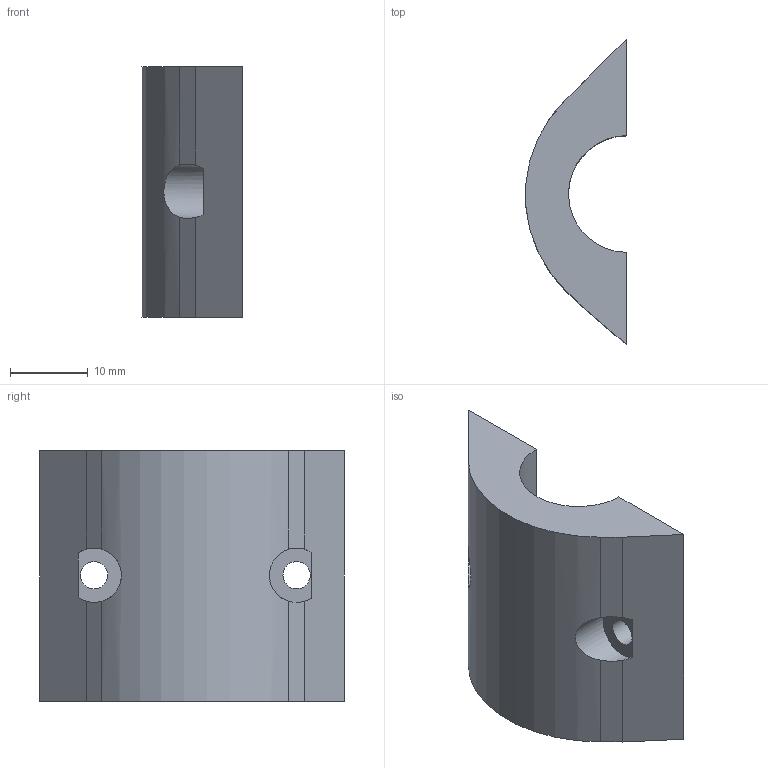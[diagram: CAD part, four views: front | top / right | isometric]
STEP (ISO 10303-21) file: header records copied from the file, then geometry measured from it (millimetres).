
FILE_DESCRIPTION(/* description */ (''),/* implementation_level */ '2;1');
FILE_NAME(/* name */ 'BC Z to Bed Clamp v1.step',/* time_stamp */ '2023-03-23T06:35:04-06:00',/* author */ (''),/* organization */ (''),/* preprocessor_version */ 'ST-DEVELOPER v19.2',/* originating_system */ 'Autodesk Translation Framework v11.17.0.187',/* authorisation */ '');
FILE_SCHEMA (('AUTOMOTIVE_DESIGN { 1 0 10303 214 3 1 1 }'));
Length unit declared in the file: millimetre
Products named in the file (2): BC Z to Bed Clamp; BC Z to Bed 2
Assembly tree (1 placements, depth 2):
  BC Z to Bed Clamp
    BC Z to Bed 2
Bounding box: 12.88 x 39.14 x 32.2 mm (x, y, z)
Volume: 7746.6 mm3; surface area: 3738 mm2
Topology: 1 solids, 1 shells, 18 faces, 48 edges, 32 vertices
Faces by surface type: plane 12, cylinder 6
Full cylindrical faces by diameter (mm): 3.5 x2
Entity records: 669 total; most frequent: CARTESIAN_POINT 136, DIRECTION 106, ORIENTED_EDGE 96, EDGE_CURVE 48, AXIS2_PLACEMENT_3D 39, VERTEX_POINT 32, LINE 28, VECTOR 28
